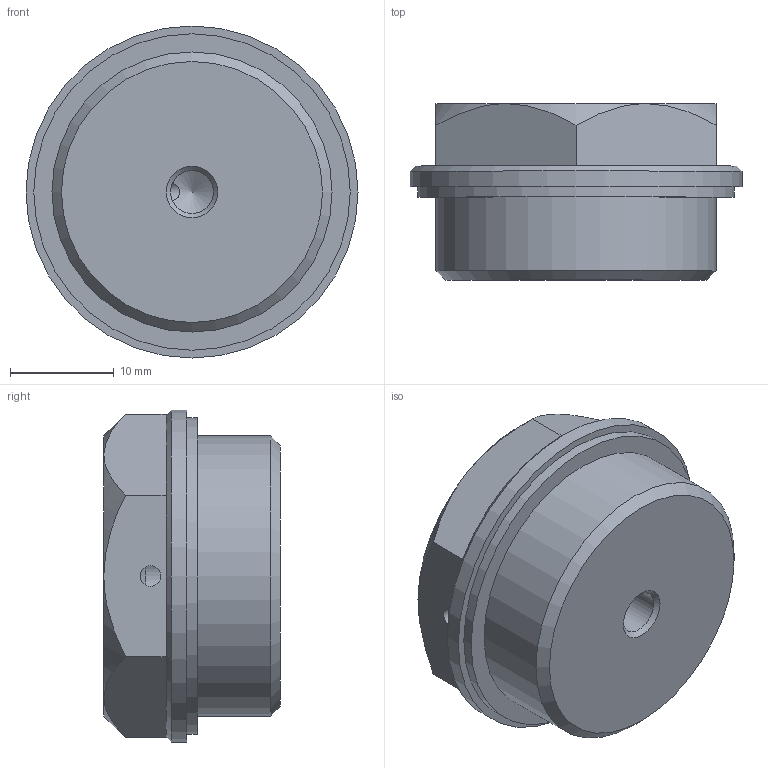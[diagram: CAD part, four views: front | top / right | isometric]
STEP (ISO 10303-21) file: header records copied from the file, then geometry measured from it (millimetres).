
FILE_DESCRIPTION( ( 'STEP AP203' ), '1' );
FILE_NAME( 'C:/Temp/Ganter_Step_05_03_2020/data/3_5/gn742/gn742_2/Threaded plug GN 742-32-M27x1,5-ESS-2.stp', '2020-03-12T13:39:38', ( 'License CC BY-ND 4.0' ), ( 'CADENAS' ), ' ', 'PARTsolutions', ' ' );
FILE_SCHEMA( ( 'CONFIG_CONTROL_DESIGN' ) );
Length unit declared in the file: millimetre
Products named in the file (1): _Threaded plug GN 742-32-M27x1,5-ESS-2
Bounding box: 32 x 17 x 32 mm (x, y, z)
Volume: 10403.7 mm3; surface area: 3263.1 mm2
Topology: 1 solids, 1 shells, 64 faces, 155 edges, 96 vertices
Faces by surface type: plane 49, cone 10, cylinder 5
Full cylindrical faces by diameter (mm): 2 x1, 4.134 x1, 27 x1, 30.5 x1, 32 x1
Entity records: 1901 total; most frequent: CARTESIAN_POINT 426, DIRECTION 287, ORIENTED_EDGE 284, EDGE_CURVE 142, LINE 99, VECTOR 99, AXIS2_PLACEMENT_3D 94, VERTEX_POINT 93
